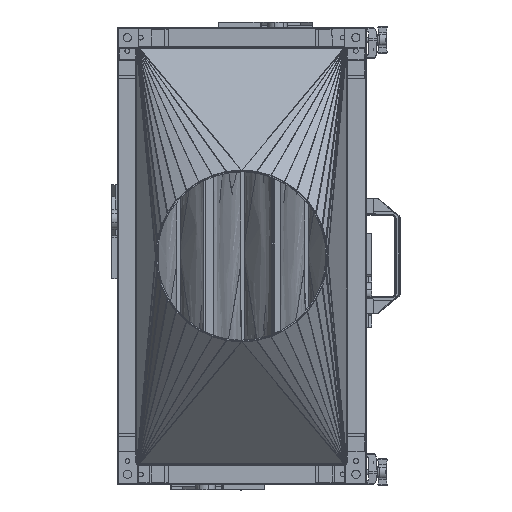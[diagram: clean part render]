
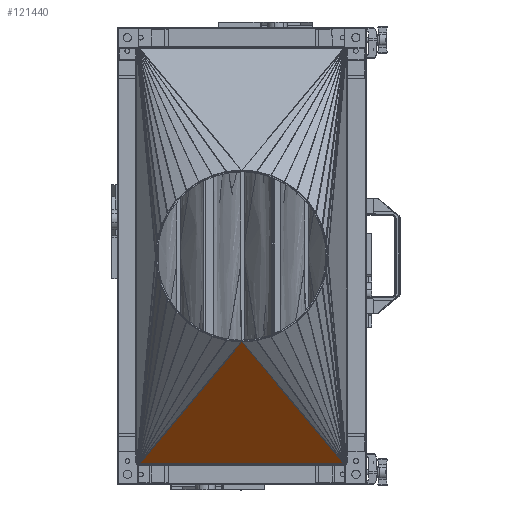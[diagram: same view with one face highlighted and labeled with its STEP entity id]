
A CAD part, left-side view. The second image highlights one B-rep face of the part: STEP entity #121440.
In plain terms, the highlighted planar face has unit normal (-0.717, 0, -0.697).
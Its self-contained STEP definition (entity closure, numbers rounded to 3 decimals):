
#8817=PLANE('',#130570);
#14551=FACE_OUTER_BOUND('',#21850,.T.);
#21850=EDGE_LOOP('',(#99491,#99492,#99493,#99494));
#33497=LINE('',#202671,#45369);
#33519=LINE('',#202733,#45391);
#33662=LINE('',#203149,#45534);
#33663=LINE('',#203152,#45535);
#45369=VECTOR('',#156637,10.);
#45391=VECTOR('',#156707,10.);
#45534=VECTOR('',#157254,10.);
#45535=VECTOR('',#157259,10.);
#55725=VERTEX_POINT('',#202668);
#55726=VERTEX_POINT('',#202670);
#55742=VERTEX_POINT('',#202731);
#55813=VERTEX_POINT('',#203148);
#70459=EDGE_CURVE('',#55725,#55726,#33497,.T.);
#70491=EDGE_CURVE('',#55742,#55725,#33519,.T.);
#70700=EDGE_CURVE('',#55813,#55726,#33662,.T.);
#70702=EDGE_CURVE('',#55742,#55813,#33663,.T.);
#99491=ORIENTED_EDGE('',*,*,#70459,.F.);
#99492=ORIENTED_EDGE('',*,*,#70491,.F.);
#99493=ORIENTED_EDGE('',*,*,#70702,.T.);
#99494=ORIENTED_EDGE('',*,*,#70700,.T.);
#121440=ADVANCED_FACE('',(#14551),#8817,.T.);
#130570=AXIS2_PLACEMENT_3D('',#203151,#157257,#157258);
#156637=DIRECTION('',(0.,1.,0.));
#156707=DIRECTION('',(0.597,-0.516,-0.614));
#157254=DIRECTION('',(0.597,0.516,-0.614));
#157257=DIRECTION('center_axis',(-0.717,0.,
-0.697));
#157258=DIRECTION('ref_axis',(0.,1.,0.));
#157259=DIRECTION('',(0.,1.,0.));
#202668=CARTESIAN_POINT('',(-427.215,-150.452,27.902));
#202670=CARTESIAN_POINT('',(-427.213,150.301,27.825));
#202671=CARTESIAN_POINT('',(-427.215,-75.264,27.882));
#202731=CARTESIAN_POINT('',(-601.331,-0.029,206.96));
#202733=CARTESIAN_POINT('',(-601.331,-0.029,206.96));
#203148=CARTESIAN_POINT('',(-601.331,-0.029,206.96));
#203149=CARTESIAN_POINT('',(-601.331,-0.029,206.96));
#203151=CARTESIAN_POINT('Origin',(-601.331,-0.029,
206.96));
#203152=CARTESIAN_POINT('',(-601.331,-0.089,206.96));
